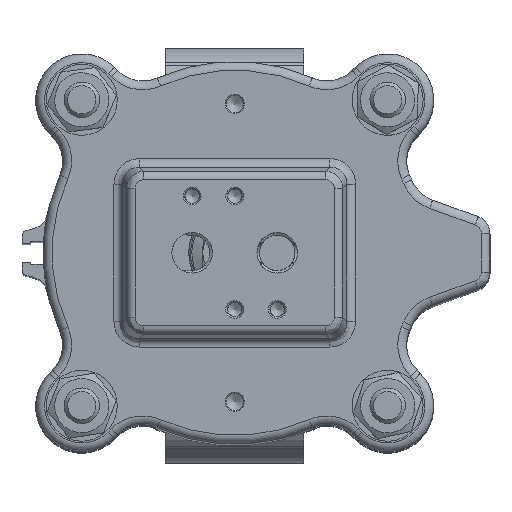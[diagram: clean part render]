
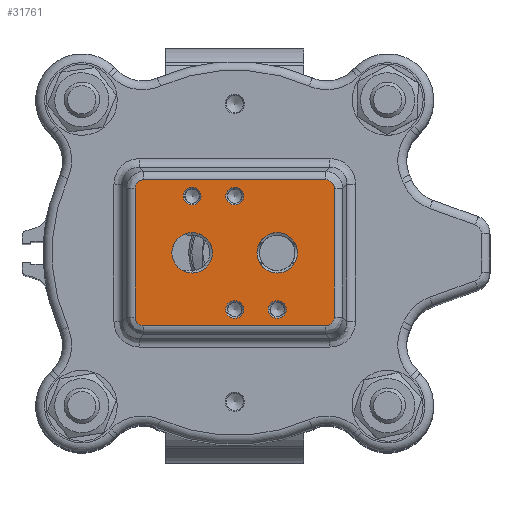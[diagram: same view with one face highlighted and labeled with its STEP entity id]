
A CAD part, top view. The second image highlights one B-rep face of the part: STEP entity #31761.
In plain terms, the highlighted planar face has unit normal (0, 0, 1).
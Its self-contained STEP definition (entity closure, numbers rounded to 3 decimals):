
#1901=FACE_BOUND('',#8838,.T.);
#1902=FACE_BOUND('',#8839,.T.);
#1903=FACE_BOUND('',#8840,.T.);
#1904=FACE_BOUND('',#8841,.T.);
#1905=FACE_BOUND('',#8842,.T.);
#1906=FACE_BOUND('',#8843,.T.);
#2474=CIRCLE('',#33878,5.723);
#2476=CIRCLE('',#33881,5.723);
#2566=CIRCLE('',#34004,2.5);
#2567=CIRCLE('',#34010,2.5);
#2568=CIRCLE('',#34011,2.5);
#2569=CIRCLE('',#34012,2.5);
#6217=ELLIPSE('',#34006,2.673,2.5);
#6218=ELLIPSE('',#34007,2.673,2.5);
#6219=ELLIPSE('',#34008,2.673,2.5);
#6220=ELLIPSE('',#34009,2.673,2.5);
#6745=FACE_OUTER_BOUND('',#8837,.T.);
#8837=EDGE_LOOP('',(#22464,#22465,#22466,#22467,#22468,#22469,#22470,#22471));
#8838=EDGE_LOOP('',(#22472));
#8839=EDGE_LOOP('',(#22473));
#8840=EDGE_LOOP('',(#22474));
#8841=EDGE_LOOP('',(#22475));
#8842=EDGE_LOOP('',(#22476));
#8843=EDGE_LOOP('',(#22477));
#11162=LINE('',#48959,#12706);
#11163=LINE('',#48963,#12707);
#11164=LINE('',#48967,#12708);
#11165=LINE('',#48970,#12709);
#12706=VECTOR('',#38693,10.);
#12707=VECTOR('',#38696,10.);
#12708=VECTOR('',#38699,10.);
#12709=VECTOR('',#38702,10.);
#14412=VERTEX_POINT('',#48403);
#14413=VERTEX_POINT('',#48407);
#14513=VERTEX_POINT('',#48952);
#14514=VERTEX_POINT('',#48955);
#14515=VERTEX_POINT('',#48956);
#14516=VERTEX_POINT('',#48958);
#14517=VERTEX_POINT('',#48960);
#14518=VERTEX_POINT('',#48962);
#14519=VERTEX_POINT('',#48964);
#14520=VERTEX_POINT('',#48966);
#14521=VERTEX_POINT('',#48968);
#14522=VERTEX_POINT('',#48971);
#14523=VERTEX_POINT('',#48973);
#14524=VERTEX_POINT('',#48975);
#17462=EDGE_CURVE('',#14412,#14412,#2474,.T.);
#17464=EDGE_CURVE('',#14413,#14413,#2476,.T.);
#17594=EDGE_CURVE('',#14513,#14513,#2566,.T.);
#17595=EDGE_CURVE('',#14514,#14515,#6217,.T.);
#17596=EDGE_CURVE('',#14516,#14514,#11162,.T.);
#17597=EDGE_CURVE('',#14517,#14516,#6218,.T.);
#17598=EDGE_CURVE('',#14518,#14517,#11163,.T.);
#17599=EDGE_CURVE('',#14519,#14518,#6219,.T.);
#17600=EDGE_CURVE('',#14520,#14519,#11164,.T.);
#17601=EDGE_CURVE('',#14521,#14520,#6220,.T.);
#17602=EDGE_CURVE('',#14515,#14521,#11165,.T.);
#17603=EDGE_CURVE('',#14522,#14522,#2567,.T.);
#17604=EDGE_CURVE('',#14523,#14523,#2568,.T.);
#17605=EDGE_CURVE('',#14524,#14524,#2569,.T.);
#22464=ORIENTED_EDGE('',*,*,#17595,.F.);
#22465=ORIENTED_EDGE('',*,*,#17596,.F.);
#22466=ORIENTED_EDGE('',*,*,#17597,.F.);
#22467=ORIENTED_EDGE('',*,*,#17598,.F.);
#22468=ORIENTED_EDGE('',*,*,#17599,.F.);
#22469=ORIENTED_EDGE('',*,*,#17600,.F.);
#22470=ORIENTED_EDGE('',*,*,#17601,.F.);
#22471=ORIENTED_EDGE('',*,*,#17602,.F.);
#22472=ORIENTED_EDGE('',*,*,#17462,.T.);
#22473=ORIENTED_EDGE('',*,*,#17464,.T.);
#22474=ORIENTED_EDGE('',*,*,#17603,.F.);
#22475=ORIENTED_EDGE('',*,*,#17604,.F.);
#22476=ORIENTED_EDGE('',*,*,#17605,.F.);
#22477=ORIENTED_EDGE('',*,*,#17594,.F.);
#30879=PLANE('',#34005);
#31761=ADVANCED_FACE('',(#6745,#1901,#1902,#1903,#1904,#1905,#1906),#30879,
 .F.);
#33878=AXIS2_PLACEMENT_3D('',#48404,#38413,#38414);
#33881=AXIS2_PLACEMENT_3D('',#48408,#38419,#38420);
#34004=AXIS2_PLACEMENT_3D('',#48953,#38687,#38688);
#34005=AXIS2_PLACEMENT_3D('',#48954,#38689,#38690);
#34006=AXIS2_PLACEMENT_3D('',#48957,#38691,#38692);
#34007=AXIS2_PLACEMENT_3D('',#48961,#38694,#38695);
#34008=AXIS2_PLACEMENT_3D('',#48965,#38697,#38698);
#34009=AXIS2_PLACEMENT_3D('',#48969,#38700,#38701);
#34010=AXIS2_PLACEMENT_3D('',#48972,#38703,#38704);
#34011=AXIS2_PLACEMENT_3D('',#48974,#38705,#38706);
#34012=AXIS2_PLACEMENT_3D('',#48976,#38707,#38708);
#38413=DIRECTION('center_axis',(0.,0.,
-1.));
#38414=DIRECTION('ref_axis',(1.,0.,0.));
#38419=DIRECTION('center_axis',(0.,0.,
-1.));
#38420=DIRECTION('ref_axis',(1.,0.,0.));
#38687=DIRECTION('center_axis',(0.,0.,
1.));
#38688=DIRECTION('ref_axis',(-1.,0.,0.));
#38689=DIRECTION('center_axis',(0.,0.,
-1.));
#38690=DIRECTION('ref_axis',(-1.,0.,0.));
#38691=DIRECTION('center_axis',(0.,0.,
-1.));
#38692=DIRECTION('ref_axis',(-0.707,-0.707,0.));
#38693=DIRECTION('',(-1.,0.,0.));
#38694=DIRECTION('center_axis',(0.,0.,
-1.));
#38695=DIRECTION('ref_axis',(0.707,-0.707,0.));
#38696=DIRECTION('',(0.,-1.,0.));
#38697=DIRECTION('center_axis',(0.,0.,
-1.));
#38698=DIRECTION('ref_axis',(0.707,0.707,0.));
#38699=DIRECTION('',(1.,0.,0.));
#38700=DIRECTION('center_axis',(0.,0.,
-1.));
#38701=DIRECTION('ref_axis',(-0.707,0.707,0.));
#38702=DIRECTION('',(0.,1.,0.));
#38703=DIRECTION('center_axis',(0.,0.,
1.));
#38704=DIRECTION('ref_axis',(-1.,0.,0.));
#38705=DIRECTION('center_axis',(0.,0.,
1.));
#38706=DIRECTION('ref_axis',(-1.,0.,0.));
#38707=DIRECTION('center_axis',(0.,0.,
1.));
#38708=DIRECTION('ref_axis',(-1.,0.,0.));
#48403=CARTESIAN_POINT('',(-6.278,0.,520.5));
#48404=CARTESIAN_POINT('Origin',(-12.,0.,
520.5));
#48407=CARTESIAN_POINT('',(17.722,0.,520.5));
#48408=CARTESIAN_POINT('Origin',(12.,0.,
520.5));
#48952=CARTESIAN_POINT('',(-9.5,16.,520.5));
#48953=CARTESIAN_POINT('Origin',(-12.,16.,520.5));
#48954=CARTESIAN_POINT('Origin',(0.,0.,
520.5));
#48955=CARTESIAN_POINT('',(-25.667,-20.582,520.5));
#48956=CARTESIAN_POINT('',(-28.082,-18.167,520.5));
#48957=CARTESIAN_POINT('Origin',(-25.493,-17.993,520.5));
#48958=CARTESIAN_POINT('',(25.667,-20.582,520.5));
#48959=CARTESIAN_POINT('',(-15.,-20.582,520.5));
#48960=CARTESIAN_POINT('',(28.082,-18.167,520.5));
#48961=CARTESIAN_POINT('Origin',(25.493,-17.993,520.5));
#48962=CARTESIAN_POINT('',(28.082,18.167,520.5));
#48963=CARTESIAN_POINT('',(28.082,-11.25,520.5));
#48964=CARTESIAN_POINT('',(25.667,20.582,520.5));
#48965=CARTESIAN_POINT('Origin',(25.493,17.993,520.5));
#48966=CARTESIAN_POINT('',(-25.667,20.582,520.5));
#48967=CARTESIAN_POINT('',(15.,20.582,520.5));
#48968=CARTESIAN_POINT('',(-28.082,18.167,520.5));
#48969=CARTESIAN_POINT('Origin',(-25.493,17.993,520.5));
#48970=CARTESIAN_POINT('',(-28.082,11.25,520.5));
#48971=CARTESIAN_POINT('',(2.5,16.,520.5));
#48972=CARTESIAN_POINT('Origin',(0.,16.,
520.5));
#48973=CARTESIAN_POINT('',(14.5,-16.,520.5));
#48974=CARTESIAN_POINT('Origin',(12.,-16.,520.5));
#48975=CARTESIAN_POINT('',(2.5,-16.,520.5));
#48976=CARTESIAN_POINT('Origin',(0.,-16.,
520.5));
